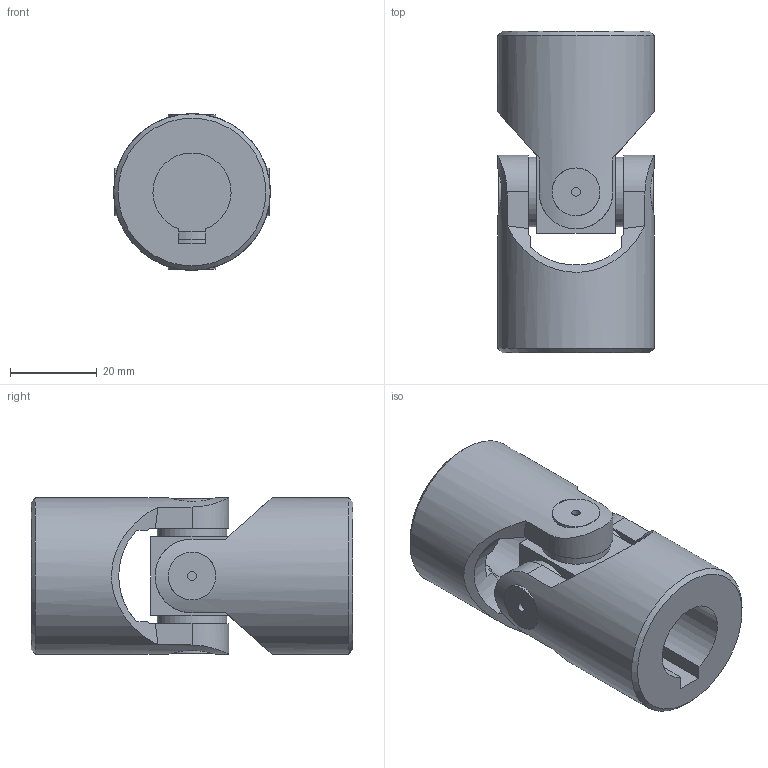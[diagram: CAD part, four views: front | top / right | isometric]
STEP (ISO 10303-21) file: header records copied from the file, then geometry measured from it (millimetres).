
FILE_DESCRIPTION(/* description */ ('EXTENSIBLE TRANSIMISSIONS Series G DIN 808 -2-'),/* implementation_level */ '2;1');
FILE_NAME(/* name */ '\\SRV2016\societa\Stefano\Disegni 3D\Dis. Clienti\0000Catalogo 3D\01Singoli G-GB\SG0S182C.stp',/* time_stamp */ '2021-11-08T16:57:30+01:00',/* author */ ('acquisti'),/* organization */ ('MARIOFERRI'),/* preprocessor_version */ 'ST-DEVELOPER v15.6',/* originating_system */ 'Autodesk Inventor 2015',/* authorisation */ '');
FILE_SCHEMA (('AUTOMOTIVE_DESIGN { 1 0 10303 214 3 1 1 }'));
Length unit declared in the file: millimetre
Products named in the file (3): 2G SFE; 2G MOC; Assieme3
Assembly tree (3 placements, depth 2):
  Assieme3
    2G SFE
    2G MOC  x2
Bounding box: 36 x 74 x 36 mm (x, y, z)
Volume: 49465.7 mm3; surface area: 16669.5 mm2
Topology: 3 solids, 3 shells, 90 faces, 216 edges, 142 vertices
Faces by surface type: plane 42, cylinder 34, cone 12, torus 2
Full cylindrical faces by diameter (mm): 2 x4, 16 x4, 36 x2
Entity records: 1705 total; most frequent: CARTESIAN_POINT 530, DIRECTION 227, ORIENTED_EDGE 222, EDGE_CURVE 111, AXIS2_PLACEMENT_3D 97, VERTEX_POINT 79, EDGE_LOOP 70, FACE_OUTER_BOUND 52
